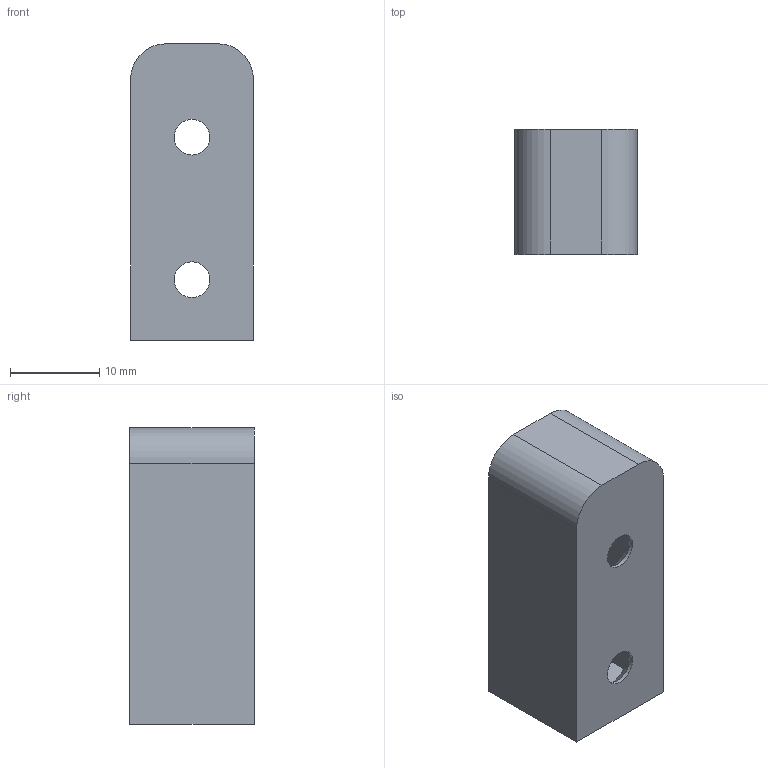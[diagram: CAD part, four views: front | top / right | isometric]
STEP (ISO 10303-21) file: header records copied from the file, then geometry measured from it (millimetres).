
FILE_DESCRIPTION (( 'STEP AP214' ), '1' );
FILE_NAME ('Relinghalter 6150 Anschrauben.STEP', '2010-09-07T11:45:39', ( 'grass' ), ( '' ), 'SwSTEP 2.0', 'SolidWorks 2010', '' );
FILE_SCHEMA (( 'AUTOMOTIVE_DESIGN' ));
Length unit declared in the file: millimetre
Products named in the file (1): Relinghalter 6150 Anschrauben
Bounding box: 13.8 x 14 x 33.3 mm (x, y, z)
Volume: 2351.7 mm3; surface area: 3119.8 mm2
Topology: 1 solids, 1 shells, 23 faces, 56 edges, 36 vertices
Faces by surface type: plane 11, cylinder 8, cone 4
Entity records: 720 total; most frequent: DIRECTION 124, CARTESIAN_POINT 116, ORIENTED_EDGE 112, EDGE_CURVE 56, AXIS2_PLACEMENT_3D 44, VERTEX_POINT 36, VECTOR 36, LINE 36
